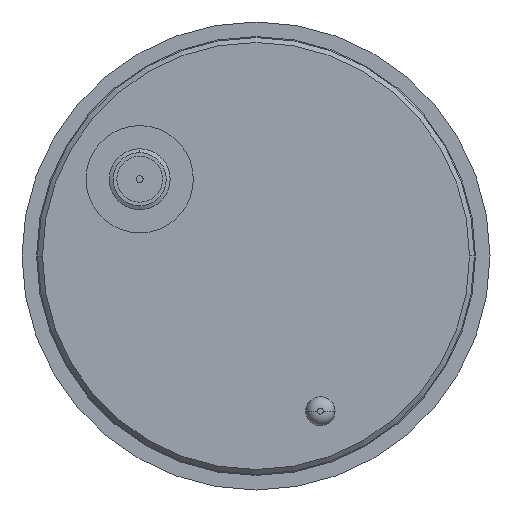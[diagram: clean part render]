
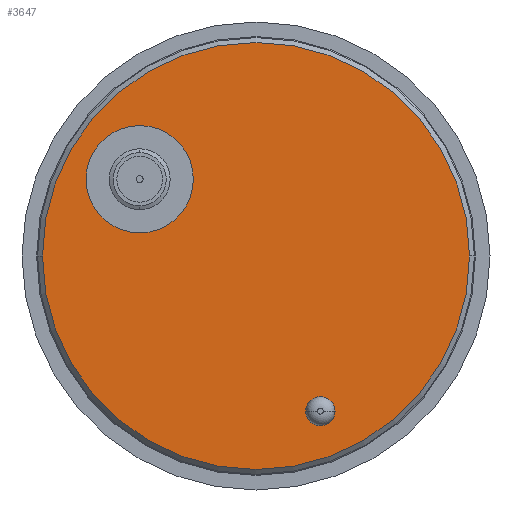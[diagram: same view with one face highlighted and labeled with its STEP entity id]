
A CAD part, front view. The second image highlights one B-rep face of the part: STEP entity #3647.
In plain terms, the highlighted planar face has unit normal (0, -1, 0).
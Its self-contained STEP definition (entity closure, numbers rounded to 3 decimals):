
#449 = DIRECTION ( 'NONE',  ( 0., 1., 0. ) ) ;
#460 = FACE_BOUND ( 'NONE', #1513, .T. ) ;
#461 = CARTESIAN_POINT ( 'NONE',  ( -5.237, 0., 0. ) ) ;
#462 = FACE_OUTER_BOUND ( 'NONE', #1511, .T. ) ;
#464 = FACE_BOUND ( 'NONE', #1588, .T. ) ;
#465 = PLANE ( 'NONE',  #4393 ) ;
#466 = DIRECTION ( 'NONE',  ( -1., 0., 0. ) ) ;
#1024 = CARTESIAN_POINT ( 'NONE',  ( -11.929, 0., 7.875 ) ) ;
#1025 = DIRECTION ( 'NONE',  ( 0., 1., 0. ) ) ;
#1026 = DIRECTION ( 'NONE',  ( 0., 0., 1. ) ) ;
#1063 = CARTESIAN_POINT ( 'NONE',  ( 6.604, 0., -15.92 ) ) ;
#1064 = DIRECTION ( 'NONE',  ( 0., 1., 0. ) ) ;
#1065 = DIRECTION ( 'NONE',  ( -1., 0., 0. ) ) ;
#1511 = EDGE_LOOP ( 'NONE', ( #1610, #1618 ) ) ;
#1513 = EDGE_LOOP ( 'NONE', ( #2426, #1606 ) ) ;
#1588 = EDGE_LOOP ( 'NONE', ( #2245, #2247 ) ) ;
#1606 = ORIENTED_EDGE ( 'NONE', *, *, #3534, .T. ) ;
#1610 = ORIENTED_EDGE ( 'NONE', *, *, #3503, .F. ) ;
#1618 = ORIENTED_EDGE ( 'NONE', *, *, #3535, .F. ) ;
#1651 = VERTEX_POINT ( 'NONE', #1863 ) ;
#1687 = VERTEX_POINT ( 'NONE', #5866 ) ;
#1766 = VERTEX_POINT ( 'NONE', #5848 ) ;
#1863 = CARTESIAN_POINT ( 'NONE',  ( 5.104, 0., -15.92 ) ) ;
#2045 = AXIS2_PLACEMENT_3D ( 'NONE', #1063, #1064, #1065 ) ;
#2050 = CIRCLE ( 'NONE', #2045, 1.5 ) ;
#2069 = AXIS2_PLACEMENT_3D ( 'NONE', #1024, #1025, #1026 ) ;
#2085 = CIRCLE ( 'NONE', #2069, 5.5 ) ;
#2245 = ORIENTED_EDGE ( 'NONE', *, *, #4627, .T. ) ;
#2247 = ORIENTED_EDGE ( 'NONE', *, *, #3536, .T. ) ;
#2426 = ORIENTED_EDGE ( 'NONE', *, *, #4639, .T. ) ;
#2748 = AXIS2_PLACEMENT_3D ( 'NONE', #4079, #4080, #4082 ) ;
#2749 = CIRCLE ( 'NONE', #2748, 1.5 ) ;
#2756 = CIRCLE ( 'NONE', #2777, 21.9 ) ;
#2771 = CIRCLE ( 'NONE', #4339, 5.5 ) ;
#2777 = AXIS2_PLACEMENT_3D ( 'NONE', #4083, #4084, #4085 ) ;
#2791 = AXIS2_PLACEMENT_3D ( 'NONE', #3970, #3971, #3972 ) ;
#2793 = CIRCLE ( 'NONE', #2791, 21.9 ) ;
#3503 = EDGE_CURVE ( 'NONE', #6001, #6004, #2793, .T. ) ;
#3534 = EDGE_CURVE ( 'NONE', #1687, #1651, #2749, .T. ) ;
#3535 = EDGE_CURVE ( 'NONE', #6004, #6001, #2756, .T. ) ;
#3536 = EDGE_CURVE ( 'NONE', #6038, #1766, #2771, .T. ) ;
#3647 = ADVANCED_FACE ( 'NONE', ( #460, #462, #464 ), #465, .F. ) ;
#3970 = CARTESIAN_POINT ( 'NONE',  ( 0., 0., 0. ) ) ;
#3971 = DIRECTION ( 'NONE',  ( 0., 1., 0. ) ) ;
#3972 = DIRECTION ( 'NONE',  ( -1., 0., 0. ) ) ;
#4079 = CARTESIAN_POINT ( 'NONE',  ( 6.604, 0., -15.92 ) ) ;
#4080 = DIRECTION ( 'NONE',  ( 0., 1., 0. ) ) ;
#4082 = DIRECTION ( 'NONE',  ( -1., 0., 0. ) ) ;
#4083 = CARTESIAN_POINT ( 'NONE',  ( 0., 0., 0. ) ) ;
#4084 = DIRECTION ( 'NONE',  ( 0., 1., 0. ) ) ;
#4085 = DIRECTION ( 'NONE',  ( -1., 0., 0. ) ) ;
#4087 = CARTESIAN_POINT ( 'NONE',  ( -11.929, 0., 7.875 ) ) ;
#4088 = DIRECTION ( 'NONE',  ( 0., 1., 0. ) ) ;
#4090 = DIRECTION ( 'NONE',  ( 0., 0., 1. ) ) ;
#4339 = AXIS2_PLACEMENT_3D ( 'NONE', #4087, #4088, #4090 ) ;
#4393 = AXIS2_PLACEMENT_3D ( 'NONE', #461, #449, #466 ) ;
#4627 = EDGE_CURVE ( 'NONE', #1766, #6038, #2085, .T. ) ;
#4639 = EDGE_CURVE ( 'NONE', #1651, #1687, #2050, .T. ) ;
#5679 = CARTESIAN_POINT ( 'NONE',  ( -21.9, 0., 0. ) ) ;
#5682 = CARTESIAN_POINT ( 'NONE',  ( 21.9, 0., 0. ) ) ;
#5716 = CARTESIAN_POINT ( 'NONE',  ( -11.929, 0., 13.375 ) ) ;
#5848 = CARTESIAN_POINT ( 'NONE',  ( -11.929, 0., 2.375 ) ) ;
#5866 = CARTESIAN_POINT ( 'NONE',  ( 8.104, 0., -15.92 ) ) ;
#6001 = VERTEX_POINT ( 'NONE', #5679 ) ;
#6004 = VERTEX_POINT ( 'NONE', #5682 ) ;
#6038 = VERTEX_POINT ( 'NONE', #5716 ) ;
